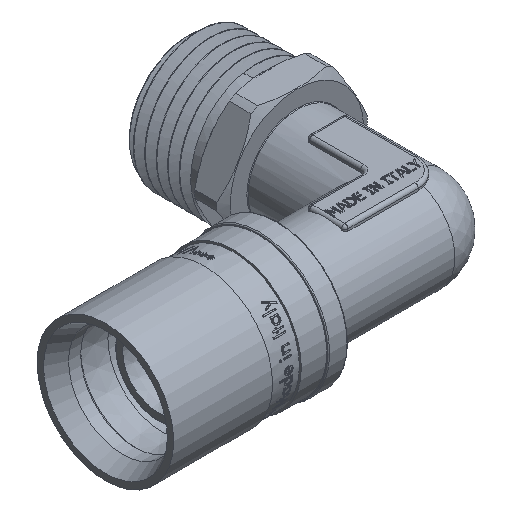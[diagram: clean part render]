
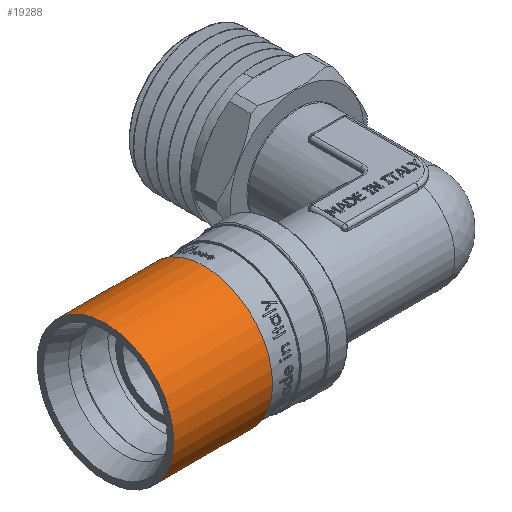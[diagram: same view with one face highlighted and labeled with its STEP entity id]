
A CAD part, isometric view. The second image highlights one B-rep face of the part: STEP entity #19288.
In plain terms, the highlighted cylindrical face has radius 10.7 mm (diameter 21.4 mm), a full revolution.
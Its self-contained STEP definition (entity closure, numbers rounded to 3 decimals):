
#1338=CIRCLE('',#20311,10.7);
#1339=CIRCLE('',#20312,10.7);
#1340=CIRCLE('',#20314,10.7);
#1341=CIRCLE('',#20315,10.7);
#2208=FACE_OUTER_BOUND('',#3349,.T.);
#3349=EDGE_LOOP('',(#16211,#16212,#16213,#16214,#16215,#16216));
#5537=LINE('',#39177,#7024);
#7024=VECTOR('',#22813,10.7);
#8966=VERTEX_POINT('',#39168);
#8967=VERTEX_POINT('',#39169);
#8968=VERTEX_POINT('',#39173);
#8969=VERTEX_POINT('',#39174);
#11516=EDGE_CURVE('',#8966,#8967,#1338,.T.);
#11517=EDGE_CURVE('',#8967,#8966,#1339,.T.);
#11518=EDGE_CURVE('',#8968,#8969,#1340,.T.);
#11519=EDGE_CURVE('',#8969,#8968,#1341,.T.);
#11520=EDGE_CURVE('',#8969,#8967,#5537,.T.);
#16211=ORIENTED_EDGE('',*,*,#11518,.F.);
#16212=ORIENTED_EDGE('',*,*,#11519,.F.);
#16213=ORIENTED_EDGE('',*,*,#11520,.T.);
#16214=ORIENTED_EDGE('',*,*,#11517,.T.);
#16215=ORIENTED_EDGE('',*,*,#11516,.T.);
#16216=ORIENTED_EDGE('',*,*,#11520,.F.);
#18586=CYLINDRICAL_SURFACE('',#20313,10.7);
#19288=ADVANCED_FACE('',(#2208),#18586,.T.);
#20311=AXIS2_PLACEMENT_3D('',#39170,#22803,#22804);
#20312=AXIS2_PLACEMENT_3D('',#39171,#22805,#22806);
#20313=AXIS2_PLACEMENT_3D('',#39172,#22807,#22808);
#20314=AXIS2_PLACEMENT_3D('',#39175,#22809,#22810);
#20315=AXIS2_PLACEMENT_3D('',#39176,#22811,#22812);
#22803=DIRECTION('center_axis',(1.,0.,0.));
#22804=DIRECTION('ref_axis',(0.,0.,-1.));
#22805=DIRECTION('center_axis',(1.,0.,0.));
#22806=DIRECTION('ref_axis',(0.,0.,-1.));
#22807=DIRECTION('center_axis',(1.,0.,0.));
#22808=DIRECTION('ref_axis',(0.,1.,0.));
#22809=DIRECTION('center_axis',(1.,0.,0.));
#22810=DIRECTION('ref_axis',(0.,0.,-1.));
#22811=DIRECTION('center_axis',(1.,0.,0.));
#22812=DIRECTION('ref_axis',(0.,0.,-1.));
#22813=DIRECTION('',(-1.,0.,0.));
#39168=CARTESIAN_POINT('',(-47.012,10.7,0.));
#39169=CARTESIAN_POINT('',(-47.012,-10.7,0.));
#39170=CARTESIAN_POINT('Origin',(-47.012,0.,
0.));
#39171=CARTESIAN_POINT('Origin',(-47.012,0.,
0.));
#39172=CARTESIAN_POINT('Origin',(-39.262,0.,
0.));
#39173=CARTESIAN_POINT('',(-31.512,10.7,0.));
#39174=CARTESIAN_POINT('',(-31.512,-10.7,0.));
#39175=CARTESIAN_POINT('Origin',(-31.512,0.,
0.));
#39176=CARTESIAN_POINT('Origin',(-31.512,0.,
0.));
#39177=CARTESIAN_POINT('',(-39.262,-10.7,0.));
